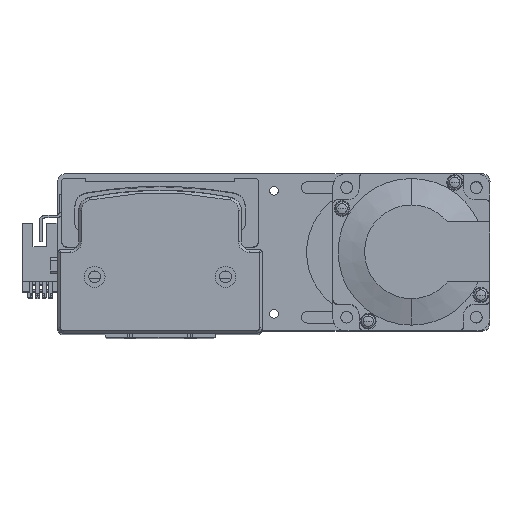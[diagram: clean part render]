
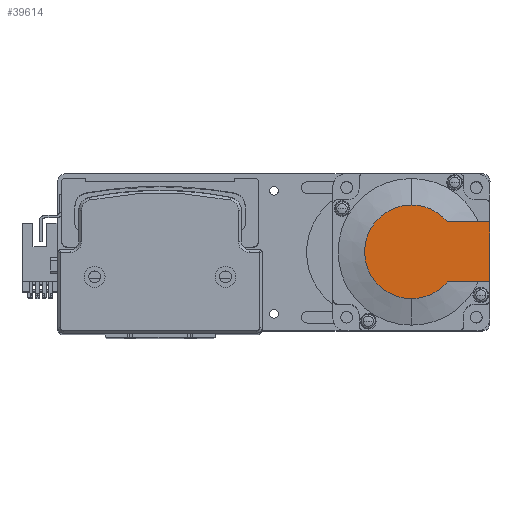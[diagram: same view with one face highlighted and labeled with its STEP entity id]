
A CAD part, top view. The second image highlights one B-rep face of the part: STEP entity #39614.
In plain terms, the highlighted planar face has unit normal (0, 0, 1) as drawn and (-1, 0, 0) by its records, which use the part's own axes.
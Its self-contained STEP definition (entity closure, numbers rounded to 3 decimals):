
#1522 = DIRECTION ( 'NONE',  ( 0., 0., -1. ) ) ;
#2328 = DIRECTION ( 'NONE',  ( 0., 0., 1. ) ) ;
#3817 = DIRECTION ( 'NONE',  ( 0., -1., 0. ) ) ;
#3904 = VERTEX_POINT ( 'NONE', #34559 ) ;
#4044 = EDGE_CURVE ( 'NONE', #20954, #44787, #40162, .T. ) ;
#4126 = EDGE_CURVE ( 'NONE', #35624, #20954, #30996, .T. ) ;
#4530 = LINE ( 'NONE', #5228, #12118 ) ;
#5228 = CARTESIAN_POINT ( 'NONE',  ( -118.5, 0., 11.45 ) ) ;
#6270 = EDGE_LOOP ( 'NONE', ( #12255, #6785, #24411, #25133, #30200, #39994 ) ) ;
#6530 = DIRECTION ( 'NONE',  ( -1., 0., 0. ) ) ;
#6536 = CARTESIAN_POINT ( 'NONE',  ( -118.5, 0., -17.881 ) ) ;
#6785 = ORIENTED_EDGE ( 'NONE', *, *, #35403, .T. ) ;
#7355 = CARTESIAN_POINT ( 'NONE',  ( -118.5, 13.735, -11.45 ) ) ;
#7867 = FACE_OUTER_BOUND ( 'NONE', #6270, .T. ) ;
#10403 = VECTOR ( 'NONE', #3817, 1000. ) ;
#10586 = AXIS2_PLACEMENT_3D ( 'NONE', #45254, #23432, #1522 ) ;
#12118 = VECTOR ( 'NONE', #38014, 1000. ) ;
#12255 = ORIENTED_EDGE ( 'NONE', *, *, #35272, .T. ) ;
#13253 = CIRCLE ( 'NONE', #10586, 17.881 ) ;
#14938 = LINE ( 'NONE', #20615, #23361 ) ;
#15120 = VERTEX_POINT ( 'NONE', #7355 ) ;
#16589 = CARTESIAN_POINT ( 'NONE',  ( -118.5, -8.941, 0. ) ) ;
#16803 = CARTESIAN_POINT ( 'NONE',  ( -118.5, 0., 17.881 ) ) ;
#16810 = DIRECTION ( 'NONE',  ( -1., 0., 0. ) ) ;
#20189 = DIRECTION ( 'NONE',  ( 0., 0., 1. ) ) ;
#20615 = CARTESIAN_POINT ( 'NONE',  ( -118.5, 30., 25. ) ) ;
#20954 = VERTEX_POINT ( 'NONE', #16803 ) ;
#23361 = VECTOR ( 'NONE', #2328, 1000. ) ;
#23432 = DIRECTION ( 'NONE',  ( -1., 0., 0. ) ) ;
#24411 = ORIENTED_EDGE ( 'NONE', *, *, #4126, .T. ) ;
#25133 = ORIENTED_EDGE ( 'NONE', *, *, #4044, .T. ) ;
#26975 = CARTESIAN_POINT ( 'NONE',  ( -118.5, 13.735, 11.45 ) ) ;
#28364 = CARTESIAN_POINT ( 'NONE',  ( -118.5, 0., 0. ) ) ;
#29337 = CARTESIAN_POINT ( 'NONE',  ( -118.5, -8.941, -11.45 ) ) ;
#29681 = LINE ( 'NONE', #29337, #10403 ) ;
#30200 = ORIENTED_EDGE ( 'NONE', *, *, #35411, .F. ) ;
#30996 = CIRCLE ( 'NONE', #36577, 17.881 ) ;
#31965 = DIRECTION ( 'NONE',  ( 0., 0., -1. ) ) ;
#34559 = CARTESIAN_POINT ( 'NONE',  ( -118.5, 30., -11.45 ) ) ;
#34937 = VERTEX_POINT ( 'NONE', #42039 ) ;
#35272 = EDGE_CURVE ( 'NONE', #3904, #15120, #29681, .T. ) ;
#35403 = EDGE_CURVE ( 'NONE', #15120, #35624, #13253, .T. ) ;
#35411 = EDGE_CURVE ( 'NONE', #34937, #44787, #4530, .T. ) ;
#35552 = EDGE_CURVE ( 'NONE', #3904, #34937, #14938, .T. ) ;
#35624 = VERTEX_POINT ( 'NONE', #6536 ) ;
#36577 = AXIS2_PLACEMENT_3D ( 'NONE', #28364, #6530, #31965 ) ;
#37191 = AXIS2_PLACEMENT_3D ( 'NONE', #38502, #16810, #42157 ) ;
#37926 = AXIS2_PLACEMENT_3D ( 'NONE', #16589, #41924, #20189 ) ;
#38014 = DIRECTION ( 'NONE',  ( 0., -1., 0. ) ) ;
#38502 = CARTESIAN_POINT ( 'NONE',  ( -118.5, 0., 0. ) ) ;
#39614 = ADVANCED_FACE ( 'NONE', ( #7867 ), #41752, .T. ) ;
#39994 = ORIENTED_EDGE ( 'NONE', *, *, #35552, .F. ) ;
#40162 = CIRCLE ( 'NONE', #37191, 17.881 ) ;
#41752 = PLANE ( 'NONE',  #37926 ) ;
#41924 = DIRECTION ( 'NONE',  ( -1., 0., 0. ) ) ;
#42039 = CARTESIAN_POINT ( 'NONE',  ( -118.5, 30., 11.45 ) ) ;
#42157 = DIRECTION ( 'NONE',  ( 0., 0., -1. ) ) ;
#44787 = VERTEX_POINT ( 'NONE', #26975 ) ;
#45254 = CARTESIAN_POINT ( 'NONE',  ( -118.5, 0., 0. ) ) ;
